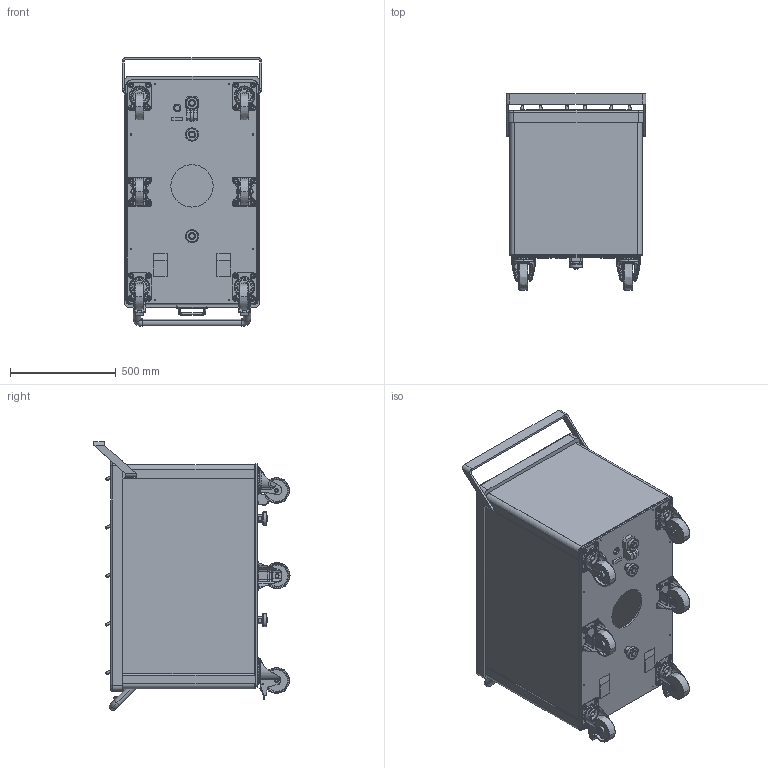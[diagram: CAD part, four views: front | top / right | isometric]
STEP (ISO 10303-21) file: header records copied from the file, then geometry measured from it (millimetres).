
FILE_DESCRIPTION (( 'STEP AP214' ), '1' );
FILE_NAME ('64015.STEP', '2019-06-11T07:00:48', ( '' ), ( '' ), 'SwSTEP 2.0', 'SolidWorks 2015', '' );
FILE_SCHEMA (( 'AUTOMOTIVE_DESIGN' ));
Length unit declared in the file: millimetre
Products named in the file (2): 64015
Bounding box: 660 x 927.78 x 1268.59 mm (x, y, z)
Volume: 42292383.4 mm3; surface area: 8441482.4 mm2
Topology: 1 solids, 1 shells, 2665 faces, 6382 edges, 3947 vertices
Faces by surface type: plane 1006, cylinder 797, bspline 390, cone 280, torus 170, sphere 22
Entity records: 108284 total; most frequent: CARTESIAN_POINT 47449, ORIENTED_EDGE 12760, DIRECTION 12370, EDGE_CURVE 6380, AXIS2_PLACEMENT_3D 4773, VERTEX_POINT 3947, EDGE_LOOP 2967, VECTOR 2824
